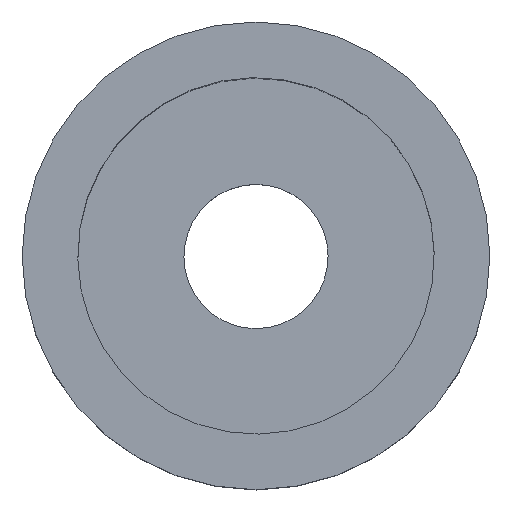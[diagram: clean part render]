
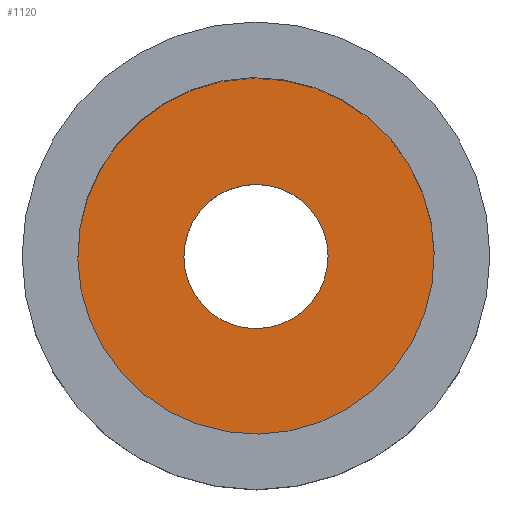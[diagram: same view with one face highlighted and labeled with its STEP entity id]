
A CAD part, top view. The second image highlights one B-rep face of the part: STEP entity #1120.
In plain terms, the highlighted planar face has unit normal (0, 0, 1).
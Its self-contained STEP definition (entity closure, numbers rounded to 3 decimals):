
#540=CARTESIAN_POINT('',(9.355,56.5,
49.515));
#550=VERTEX_POINT('',#540);
#730=CARTESIAN_POINT('',(43.95,57.11,
49.515));
#740=VERTEX_POINT('',#730);
#770=CARTESIAN_POINT('',(26.653,56.805,49.515));
#780=DIRECTION('',(0.,0.,1.));
#790=DIRECTION('',(-1.,-0.018,
0.));
#800=AXIS2_PLACEMENT_3D('',#770,#780,#790);
#810=CIRCLE('',#800,17.3);
#820=EDGE_CURVE('',#740,#550,#810,.T.);
#870=CARTESIAN_POINT('',(26.653,35.505,49.515));
#880=DIRECTION('',(0.,0.,1.));
#890=DIRECTION('',(0.,1.,0.));
#900=AXIS2_PLACEMENT_3D('',#870,#880,#890);
#910=PLANE('',#900);
#920=CARTESIAN_POINT('',(26.653,56.805,49.515));
#930=DIRECTION('',(0.,0.,-1.));
#940=DIRECTION('',(1.,0.018,
0.));
#950=AXIS2_PLACEMENT_3D('',#920,#930,#940);
#960=CIRCLE('',#950,7.);
#970=CARTESIAN_POINT('',(33.651,56.928,
49.515));
#980=VERTEX_POINT('',#970);
#990=CARTESIAN_POINT('',(19.654,56.681,
49.515));
#1000=VERTEX_POINT('',#990);
#1010=EDGE_CURVE('',#980,#1000,#960,.T.);
#1020=ORIENTED_EDGE('',*,*,#1010,.T.);
#1030=EDGE_CURVE('',#1000,#980,#960,.T.);
#1040=ORIENTED_EDGE('',*,*,#1030,.T.);
#1050=EDGE_LOOP('',(#1040,#1020));
#1060=FACE_BOUND('',#1050,.T.);
#1070=EDGE_CURVE('',#550,#740,#810,.T.);
#1080=ORIENTED_EDGE('',*,*,#1070,.T.);
#1090=ORIENTED_EDGE('',*,*,#820,.T.);
#1100=EDGE_LOOP('',(#1090,#1080));
#1110=FACE_OUTER_BOUND('',#1100,.T.);
#1120=ADVANCED_FACE('',(#1060,#1110),#910,.T.);
